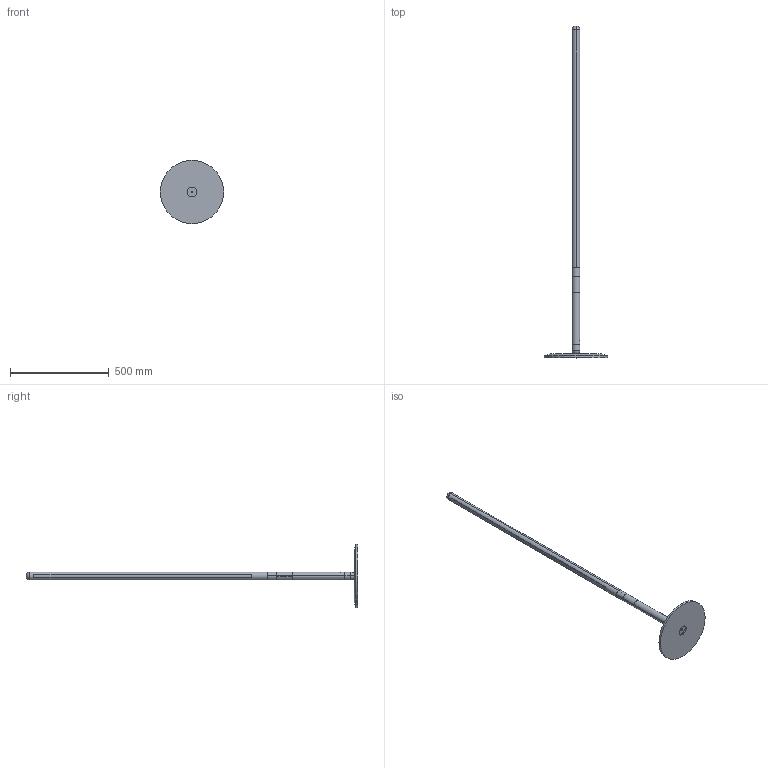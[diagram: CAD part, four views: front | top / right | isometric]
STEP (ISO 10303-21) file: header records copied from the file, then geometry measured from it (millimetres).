
FILE_DESCRIPTION (( 'STEP AP214' ), '1' );
FILE_NAME ('ENSAMBLAJE LAMPARA PIE.STEP', '2022-09-01T06:59:11', ( '' ), ( '' ), 'SwSTEP 2.0', 'SolidWorks 2016', '' );
FILE_SCHEMA (( 'AUTOMOTIVE_DESIGN' ));
Length unit declared in the file: millimetre
Products named in the file (7): CUERPO_LAMPARA_PIE; DIFUSOR_LUZ_CARRIL_PIE; TERMINAL SUPERIOR LAMPARA PIE; TUBO INFERIOR LAMPARA PIE; TUBO METÁLICO COETE; ENSAMBLAJE LAMPARA PIE; BASE_MARMOL_GALÁN DE NOCHE_CHAFLAN_10X30
Assembly tree (7 placements, depth 2):
  ENSAMBLAJE LAMPARA PIE
    CUERPO_LAMPARA_PIE
    TUBO METÁLICO COETE
    TUBO INFERIOR LAMPARA PIE  x2
    DIFUSOR_LUZ_CARRIL_PIE
    TERMINAL SUPERIOR LAMPARA PIE
    BASE_MARMOL_GALÁN DE NOCHE_CHAFLAN_10X30
Bounding box: 320 x 1677 x 320 mm (x, y, z)
Volume: 2782792.1 mm3; surface area: 654525.2 mm2
Topology: 7 solids, 7 shells, 77 faces, 190 edges, 123 vertices
Faces by surface type: cylinder 37, plane 34, sphere 4, cone 2
Entity records: 2602 total; most frequent: CARTESIAN_POINT 508, DIRECTION 386, ORIENTED_EDGE 340, EDGE_CURVE 170, AXIS2_PLACEMENT_3D 151, VERTEX_POINT 111, EDGE_LOOP 85, LINE 84
